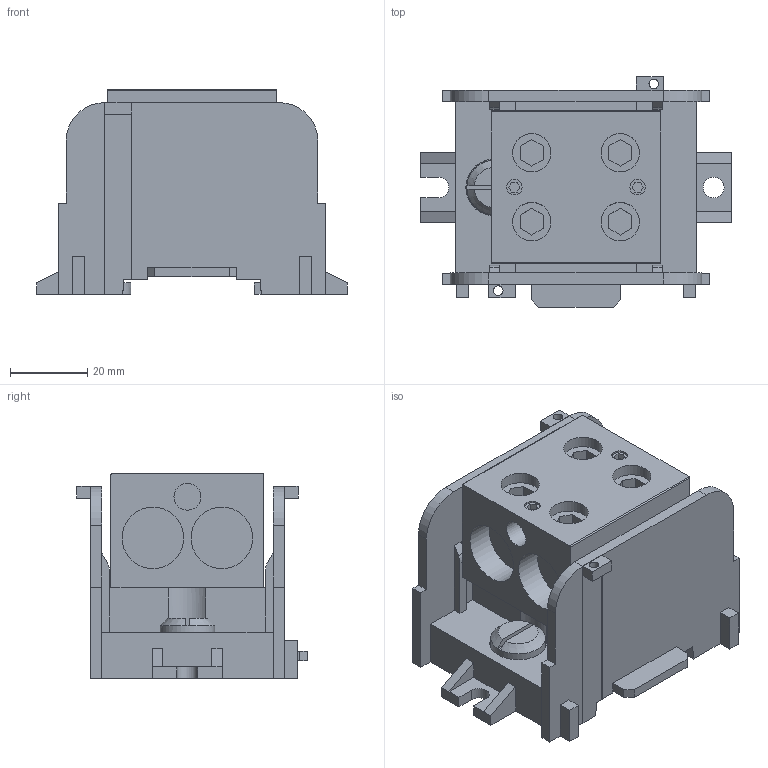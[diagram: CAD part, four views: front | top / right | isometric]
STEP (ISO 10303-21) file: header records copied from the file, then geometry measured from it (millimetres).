
FILE_DESCRIPTION(/* description */ ('Unknown'),/* implementation_level */ '2;1');
FILE_NAME(/* name */ 'UTB-S 2x95A',/* time_stamp */ '2021-05-10T12:38:28+02:00',/* author */ ('Unknown'),/* organization */ ('Unknown'),/* preprocessor_version */ 'ST-DEVELOPER v16.7',/* originating_system */ 'Solid Edge',/* authorisation */ 'Unknown');
FILE_SCHEMA (('AUTOMOTIVE_DESIGN {1 0 10303 214 3 1 1}'));
Length unit declared in the file: millimetre
Products named in the file (1): UTB-S 2x95A
Bounding box: 80.6 x 59.9 x 53.2 mm (x, y, z)
Volume: 105113.2 mm3; surface area: 30933.1 mm2
Topology: 1 solids, 1 shells, 210 faces, 554 edges, 365 vertices
Faces by surface type: plane 179, cylinder 29, cone 2
Full cylindrical faces by diameter (mm): 2.5 x2, 4 x2, 5.4 x1, 7 x2, 10 x4, 14.2 x1, 14.7 x1, 16 x4
Entity records: 6280 total; most frequent: CARTESIAN_POINT 1107, ORIENTED_EDGE 1056, DIRECTION 1012, EDGE_CURVE 528, LINE 458, VECTOR 458, VERTEX_POINT 356, AXIS2_PLACEMENT_3D 277
